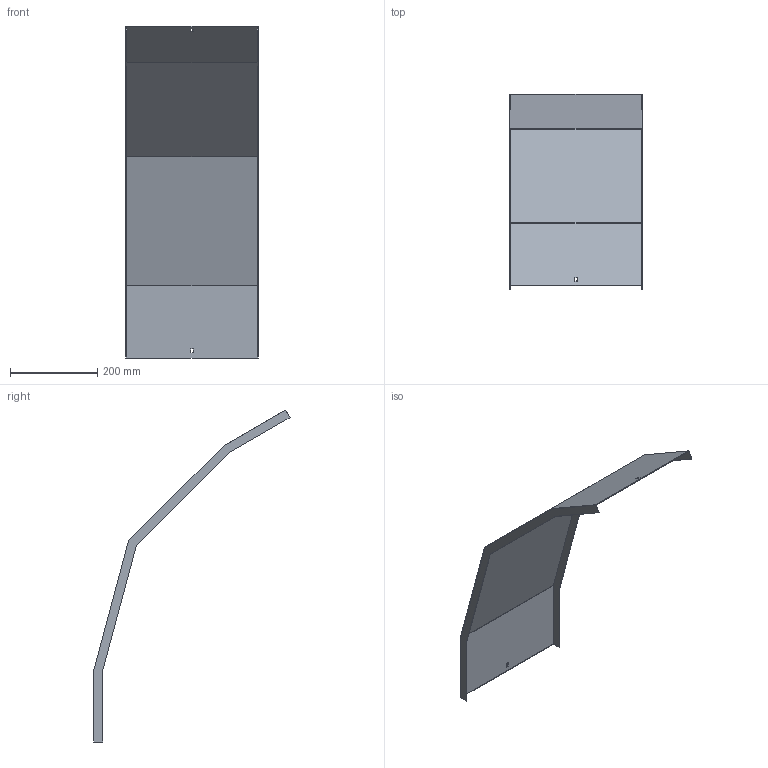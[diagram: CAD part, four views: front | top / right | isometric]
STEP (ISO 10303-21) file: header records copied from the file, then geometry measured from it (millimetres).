
FILE_DESCRIPTION (( 'STEP AP214' ), '1' );
FILE_NAME ('41N5D300.step', '2025-02-21T10:38:06', ( '' ), ( '' ), 'SwSTEP 2.0', 'SolidWorks 2023', '' );
FILE_SCHEMA (( 'AUTOMOTIVE_DESIGN' ));
Length unit declared in the file: millimetre
Products named in the file (1): 41N5D300
Bounding box: 303 x 449.97 x 762.06 mm (x, y, z)
Volume: 480906 mm3; surface area: 645095.4 mm2
Topology: 1 solids, 1 shells, 30 faces, 84 edges, 56 vertices
Faces by surface type: plane 30
Entity records: 979 total; most frequent: CARTESIAN_POINT 171, ORIENTED_EDGE 168, DIRECTION 146, EDGE_CURVE 84, LINE 84, VECTOR 84, VERTEX_POINT 56, EDGE_LOOP 34
